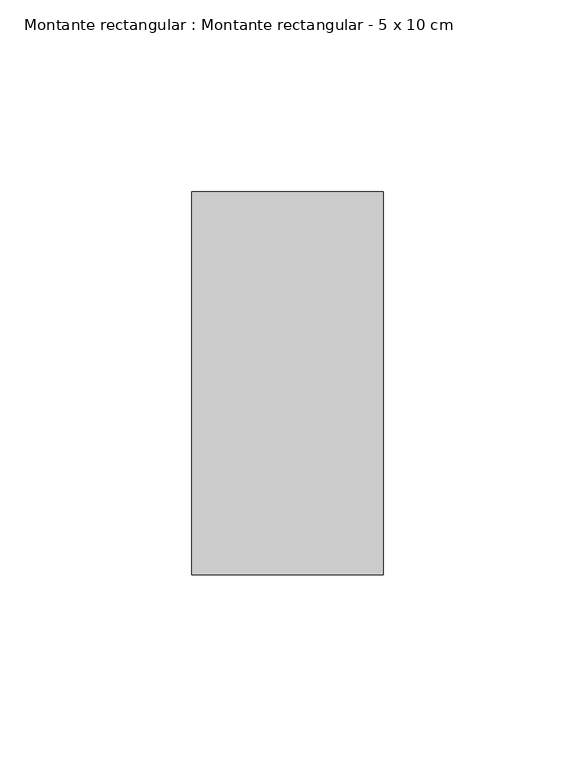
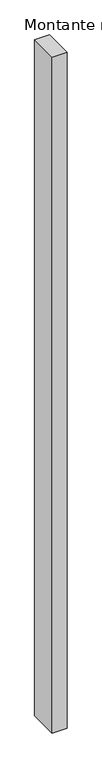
"""IFC4 building model written with IfcOpenShell, lengths in millimetres: member geometry, Montante rectangular : Montante rectangular - 5 x 10 cm."""

from ifc_helpers import new_model, si_unit, frame, origin, place, context, project, spatial, polyline, outline, extrude, source, transform, mapped, element, save


def montante_rectangular_montante_rectangular_5_x_10_cm_8849c78b(model_context):
    return source(origin(), model_context, "Body", "SweptSolid", [
        extrude(outline(polyline([(25.0, 50.0), (25.0, -50.0), (-25.0, -50.0), (-25.0, 50.0), (25.0, 50.0)])), frame((0.0, 0.0, -2370.0), z_axis=(0.0, 0.0, 1.0), x_axis=(1.0, 0.0, 0.0)), (0.0, 0.0, 1.0), 2370.0),
    ])


if __name__ == "__main__":
    model = new_model("IFC4")
    model_context = context("Model", 3, world=origin())
    ifc_project = project(units=[si_unit("LENGTHUNIT", "METRE", prefix="MILLI")], contexts=[model_context])
    site = spatial("IfcSite", under=ifc_project)
    building = spatial("IfcBuilding", under=site)
    placement = place(None, origin())
    montante_rectangular_montante_rectangular_5_x_10_cm_shape = montante_rectangular_montante_rectangular_5_x_10_cm_8849c78b(model_context)
    element("IfcMember", 1, ObjectType="Montante rectangular : Montante rectangular - 5 x 10 cm", at=placement, inside=building, context=model_context, shape_type="MappedRepresentation", body=[
        mapped(montante_rectangular_montante_rectangular_5_x_10_cm_shape, transform((0.0, 0.0, 0.0), x_axis=(1.0, 0.0, 0.0), y_axis=(0.0, 1.0, 0.0), z_axis=(0.0, 0.0, 1.0))),
    ])
    save(model, "model.ifc")
